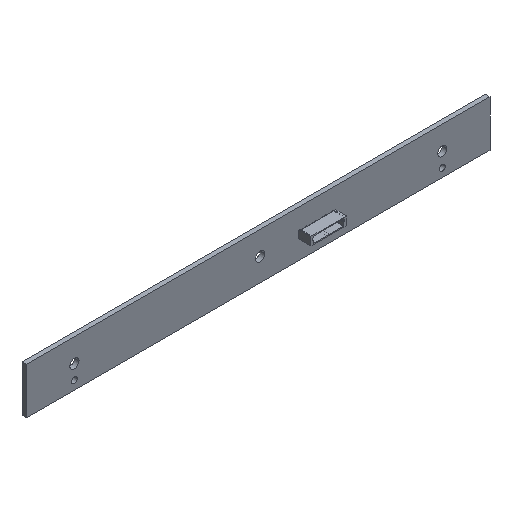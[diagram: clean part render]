
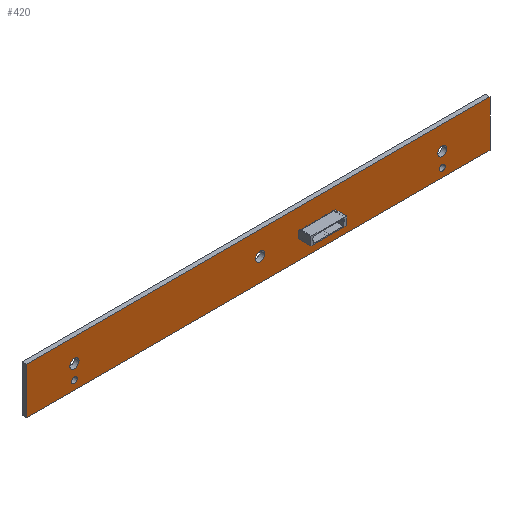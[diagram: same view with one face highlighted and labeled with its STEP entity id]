
A CAD part, isometric view. The second image highlights one B-rep face of the part: STEP entity #420.
In plain terms, the highlighted planar face has unit normal (0, -1, 0).
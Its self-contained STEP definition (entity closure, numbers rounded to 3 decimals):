
#4=DIRECTION('',(0.,0.,1.));
#5=VECTOR('',#4,16.);
#6=CARTESIAN_POINT('',(-80.,0.,-8.));
#7=LINE('',#6,#5);
#12=DIRECTION('',(1.,0.,0.));
#13=VECTOR('',#12,160.);
#14=CARTESIAN_POINT('',(-80.,0.,8.));
#15=LINE('',#14,#13);
#19=DIRECTION('',(0.,0.,-1.));
#20=VECTOR('',#19,16.);
#21=CARTESIAN_POINT('',(80.,0.,8.));
#22=LINE('',#21,#20);
#26=DIRECTION('',(-1.,0.,0.));
#27=VECTOR('',#26,160.);
#28=CARTESIAN_POINT('',(80.,0.,-8.));
#29=LINE('',#28,#27);
#33=CARTESIAN_POINT('',(-63.5,0.,0.));
#34=DIRECTION('',(0.,1.,0.));
#35=DIRECTION('',(1.,0.,0.));
#36=AXIS2_PLACEMENT_3D('',#33,#34,#35);
#41=CARTESIAN_POINT('',(-63.5,0.,0.));
#42=DIRECTION('',(0.,1.,0.));
#43=DIRECTION('',(-1.,0.,0.));
#44=AXIS2_PLACEMENT_3D('',#41,#42,#43);
#49=CARTESIAN_POINT('',(63.55,0.,0.));
#50=DIRECTION('',(0.,1.,0.));
#51=DIRECTION('',(1.,0.,0.));
#52=AXIS2_PLACEMENT_3D('',#49,#50,#51);
#57=CARTESIAN_POINT('',(63.55,0.,0.));
#58=DIRECTION('',(0.,1.,0.));
#59=DIRECTION('',(-1.,0.,0.));
#60=AXIS2_PLACEMENT_3D('',#57,#58,#59);
#65=CARTESIAN_POINT('',(63.55,0.,-5.));
#66=DIRECTION('',(0.,1.,0.));
#67=DIRECTION('',(1.,0.,0.));
#68=AXIS2_PLACEMENT_3D('',#65,#66,#67);
#73=CARTESIAN_POINT('',(63.55,0.,-5.));
#74=DIRECTION('',(0.,1.,0.));
#75=DIRECTION('',(-1.,0.,0.));
#76=AXIS2_PLACEMENT_3D('',#73,#74,#75);
#81=CARTESIAN_POINT('',(-63.5,0.,-5.));
#82=DIRECTION('',(0.,1.,0.));
#83=DIRECTION('',(1.,0.,0.));
#84=AXIS2_PLACEMENT_3D('',#81,#82,#83);
#89=CARTESIAN_POINT('',(-63.5,0.,-5.));
#90=DIRECTION('',(0.,1.,0.));
#91=DIRECTION('',(-1.,0.,0.));
#92=AXIS2_PLACEMENT_3D('',#89,#90,#91);
#97=CARTESIAN_POINT('',(0.6,0.,0.));
#98=DIRECTION('',(0.,1.,0.));
#99=DIRECTION('',(1.,0.,0.));
#100=AXIS2_PLACEMENT_3D('',#97,#98,#99);
#105=CARTESIAN_POINT('',(0.6,0.,0.));
#106=DIRECTION('',(0.,1.,0.));
#107=DIRECTION('',(-1.,0.,0.));
#108=AXIS2_PLACEMENT_3D('',#105,#106,#107);
#319=CARTESIAN_POINT('',(-80.,0.,-8.));
#320=CARTESIAN_POINT('',(-80.,0.,8.));
#321=VERTEX_POINT('',#319);
#322=VERTEX_POINT('',#320);
#323=CARTESIAN_POINT('',(80.,0.,8.));
#324=VERTEX_POINT('',#323);
#325=CARTESIAN_POINT('',(80.,0.,-8.));
#326=VERTEX_POINT('',#325);
#335=CARTESIAN_POINT('',(-61.9,0.,0.));
#336=CARTESIAN_POINT('',(-65.1,0.,0.));
#337=VERTEX_POINT('',#335);
#338=VERTEX_POINT('',#336);
#339=CARTESIAN_POINT('',(65.15,0.,0.));
#340=CARTESIAN_POINT('',(61.95,0.,0.));
#341=VERTEX_POINT('',#339);
#342=VERTEX_POINT('',#340);
#351=CARTESIAN_POINT('',(64.55,0.,-5.));
#352=CARTESIAN_POINT('',(62.55,0.,-5.));
#353=VERTEX_POINT('',#351);
#354=VERTEX_POINT('',#352);
#355=CARTESIAN_POINT('',(-62.5,0.,-5.));
#356=CARTESIAN_POINT('',(-64.5,0.,-5.));
#357=VERTEX_POINT('',#355);
#358=VERTEX_POINT('',#356);
#367=CARTESIAN_POINT('',(2.2,0.,0.));
#368=CARTESIAN_POINT('',(-1.,0.,0.));
#369=VERTEX_POINT('',#367);
#370=VERTEX_POINT('',#368);
#375=CARTESIAN_POINT('',(0.,0.,0.));
#376=DIRECTION('',(0.,1.,0.));
#377=DIRECTION('',(1.,0.,0.));
#378=AXIS2_PLACEMENT_3D('',#375,#376,#377);
#379=PLANE('',#378);
#381=ORIENTED_EDGE('',*,*,#380,.T.);
#383=ORIENTED_EDGE('',*,*,#382,.T.);
#385=ORIENTED_EDGE('',*,*,#384,.T.);
#387=ORIENTED_EDGE('',*,*,#386,.T.);
#388=EDGE_LOOP('',(#381,#383,#385,#387));
#389=FACE_OUTER_BOUND('',#388,.F.);
#391=ORIENTED_EDGE('',*,*,#390,.F.);
#393=ORIENTED_EDGE('',*,*,#392,.F.);
#394=EDGE_LOOP('',(#391,#393));
#395=FACE_BOUND('',#394,.F.);
#397=ORIENTED_EDGE('',*,*,#396,.F.);
#399=ORIENTED_EDGE('',*,*,#398,.F.);
#400=EDGE_LOOP('',(#397,#399));
#401=FACE_BOUND('',#400,.F.);
#403=ORIENTED_EDGE('',*,*,#402,.F.);
#405=ORIENTED_EDGE('',*,*,#404,.F.);
#406=EDGE_LOOP('',(#403,#405));
#407=FACE_BOUND('',#406,.F.);
#409=ORIENTED_EDGE('',*,*,#408,.F.);
#411=ORIENTED_EDGE('',*,*,#410,.F.);
#412=EDGE_LOOP('',(#409,#411));
#413=FACE_BOUND('',#412,.F.);
#415=ORIENTED_EDGE('',*,*,#414,.F.);
#417=ORIENTED_EDGE('',*,*,#416,.F.);
#418=EDGE_LOOP('',(#415,#417));
#419=FACE_BOUND('',#418,.F.);
#420=ADVANCED_FACE('',(#389,#395,#401,#407,#413,#419),#379,.F.);
#37=CIRCLE('',#36,1.6);
#45=CIRCLE('',#44,1.6);
#53=CIRCLE('',#52,1.6);
#61=CIRCLE('',#60,1.6);
#69=CIRCLE('',#68,1.);
#77=CIRCLE('',#76,1.);
#85=CIRCLE('',#84,1.);
#93=CIRCLE('',#92,1.);
#101=CIRCLE('',#100,1.6);
#109=CIRCLE('',#108,1.6);
#380=EDGE_CURVE('',#321,#322,#7,.T.);
#382=EDGE_CURVE('',#322,#324,#15,.T.);
#384=EDGE_CURVE('',#324,#326,#22,.T.);
#386=EDGE_CURVE('',#326,#321,#29,.T.);
#390=EDGE_CURVE('',#337,#338,#37,.T.);
#392=EDGE_CURVE('',#338,#337,#45,.T.);
#396=EDGE_CURVE('',#341,#342,#53,.T.);
#398=EDGE_CURVE('',#342,#341,#61,.T.);
#402=EDGE_CURVE('',#353,#354,#69,.T.);
#404=EDGE_CURVE('',#354,#353,#77,.T.);
#408=EDGE_CURVE('',#357,#358,#85,.T.);
#410=EDGE_CURVE('',#358,#357,#93,.T.);
#414=EDGE_CURVE('',#369,#370,#101,.T.);
#416=EDGE_CURVE('',#370,#369,#109,.T.);
